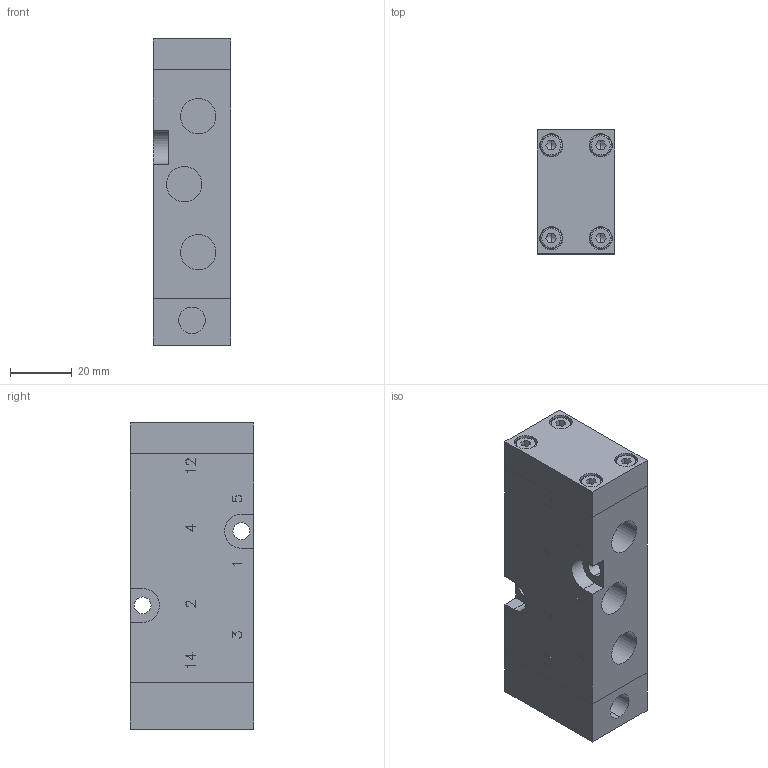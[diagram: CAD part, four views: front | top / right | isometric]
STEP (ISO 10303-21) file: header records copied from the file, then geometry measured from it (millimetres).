
FILE_DESCRIPTION (( 'STEP AP214' ), '1' );
FILE_NAME ('PNX-55-511_Airtec.step', '2019-01-07T15:39:06', ( '' ), ( '' ), 'SwSTEP 2.0', 'SolidWorks 2010', '' );
FILE_SCHEMA (( 'AUTOMOTIVE_DESIGN' ));
Length unit declared in the file: millimetre
Products named in the file (1): PNX-55-511_Airtec
Bounding box: 25 x 40 x 99 mm (x, y, z)
Volume: 91959.1 mm3; surface area: 18976.2 mm2
Topology: 1 solids, 1 shells, 364 faces, 973 edges, 635 vertices
Faces by surface type: plane 274, cylinder 52, cone 22, torus 16
Entity records: 12281 total; most frequent: CARTESIAN_POINT 2083, ORIENTED_EDGE 1910, DIRECTION 1777, EDGE_CURVE 955, LINE 735, VECTOR 735, VERTEX_POINT 635, AXIS2_PLACEMENT_3D 521
